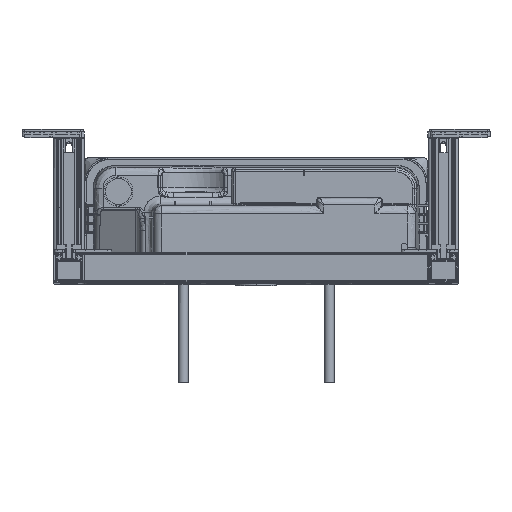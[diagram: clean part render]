
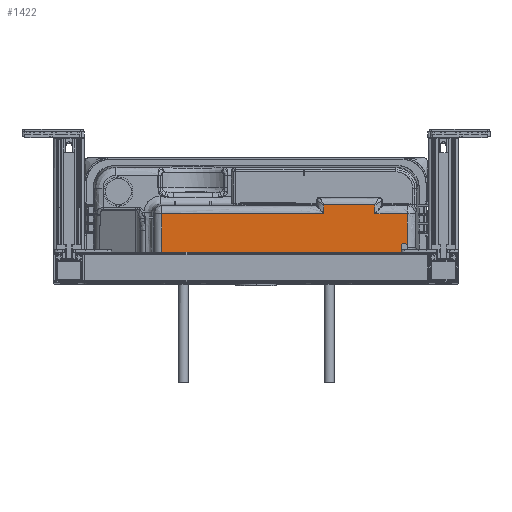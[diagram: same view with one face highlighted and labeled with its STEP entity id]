
A CAD part, top view. The second image highlights one B-rep face of the part: STEP entity #1422.
In plain terms, the highlighted planar face has unit normal (0, 0, 1).
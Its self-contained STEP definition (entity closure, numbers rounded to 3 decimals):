
#1422=ADVANCED_FACE('',(#8887),#117073,.T.);
#8887=FACE_OUTER_BOUND('',#16382,.T.);
#16382=EDGE_LOOP('',(#27966,#27967,#27968,#27969,#27970,#27971,#27972,#27973,
#27974,#27975));
#27966=ORIENTED_EDGE('',*,*,#64382,.T.);
#27967=ORIENTED_EDGE('',*,*,#64381,.F.);
#27968=ORIENTED_EDGE('',*,*,#64383,.F.);
#27969=ORIENTED_EDGE('',*,*,#64384,.F.);
#27970=ORIENTED_EDGE('',*,*,#63658,.F.);
#27971=ORIENTED_EDGE('',*,*,#63646,.F.);
#27972=ORIENTED_EDGE('',*,*,#63671,.F.);
#27973=ORIENTED_EDGE('',*,*,#64385,.T.);
#27974=ORIENTED_EDGE('',*,*,#64386,.F.);
#27975=ORIENTED_EDGE('',*,*,#64387,.F.);
#63646=EDGE_CURVE('',#102035,#102036,#82157,.T.);
#63658=EDGE_CURVE('',#102036,#102044,#82163,.T.);
#63671=EDGE_CURVE('',#102048,#102035,#82169,.T.);
#64381=EDGE_CURVE('',#102049,#102377,#82410,.T.);
#64382=EDGE_CURVE('',#102004,#102377,#82411,.T.);
#64383=EDGE_CURVE('',#102047,#102049,#89868,.T.);
#64384=EDGE_CURVE('',#102044,#102047,#89869,.T.);
#64385=EDGE_CURVE('',#102048,#102006,#89870,.T.);
#64386=EDGE_CURVE('',#102005,#102006,#89871,.T.);
#64387=EDGE_CURVE('',#102004,#102005,#89872,.T.);
#82157=(
BOUNDED_CURVE()
B_SPLINE_CURVE(1,(#163518,#163519),.UNSPECIFIED.,.F.,.F.)
B_SPLINE_CURVE_WITH_KNOTS((2,2),(-11.022,0.),.UNSPECIFIED.)
CURVE()
GEOMETRIC_REPRESENTATION_ITEM()
RATIONAL_B_SPLINE_CURVE((1.,1.))
REPRESENTATION_ITEM('')
);
#82163=(
BOUNDED_CURVE()
B_SPLINE_CURVE(1,(#163562,#163563),.UNSPECIFIED.,.F.,.F.)
B_SPLINE_CURVE_WITH_KNOTS((2,2),(-63.,0.),.UNSPECIFIED.)
CURVE()
GEOMETRIC_REPRESENTATION_ITEM()
RATIONAL_B_SPLINE_CURVE((1.,1.))
REPRESENTATION_ITEM('')
);
#82169=(
BOUNDED_CURVE()
B_SPLINE_CURVE(1,(#163631,#163632),.UNSPECIFIED.,.F.,.F.)
B_SPLINE_CURVE_WITH_KNOTS((2,2),(-199.935,0.),.UNSPECIFIED.)
CURVE()
GEOMETRIC_REPRESENTATION_ITEM()
RATIONAL_B_SPLINE_CURVE((1.,1.))
REPRESENTATION_ITEM('')
);
#82410=(
BOUNDED_CURVE()
B_SPLINE_CURVE(1,(#167019,#167020),.UNSPECIFIED.,.F.,.F.)
B_SPLINE_CURVE_WITH_KNOTS((2,2),(-38.214,0.),.UNSPECIFIED.)
CURVE()
GEOMETRIC_REPRESENTATION_ITEM()
RATIONAL_B_SPLINE_CURVE((1.,1.))
REPRESENTATION_ITEM('')
);
#82411=(
BOUNDED_CURVE()
B_SPLINE_CURVE(2,(#167021,#167022,#167023,#167024,#167025,#167026,#167027,
#167028,#167029),.UNSPECIFIED.,.F.,.F.)
B_SPLINE_CURVE_WITH_KNOTS((3,2,2,2,3),(-10.606,-5.303,
0.,5.321,10.643),.UNSPECIFIED.)
CURVE()
GEOMETRIC_REPRESENTATION_ITEM()
RATIONAL_B_SPLINE_CURVE((1.,0.803,1.,0.803,1.,0.801,
1.,0.801,1.))
REPRESENTATION_ITEM('')
);
#89868=B_SPLINE_CURVE_WITH_KNOTS('',1,(#167030,#167031),.UNSPECIFIED.,.F.,
 .F.,(2,2),(-39.978,0.),.UNSPECIFIED.);
#89869=B_SPLINE_CURVE_WITH_KNOTS('',1,(#167032,#167033),.UNSPECIFIED.,.F.,
 .F.,(2,2),(-11.022,0.),.UNSPECIFIED.);
#89870=B_SPLINE_CURVE_WITH_KNOTS('',1,(#167034,#167035),.UNSPECIFIED.,.F.,
 .F.,(2,2),(0.,57.956),.UNSPECIFIED.);
#89871=B_SPLINE_CURVE_WITH_KNOTS('',1,(#167036,#167037),.UNSPECIFIED.,.F.,
 .F.,(2,2),(-286.923,0.),.UNSPECIFIED.);
#89872=B_SPLINE_CURVE_WITH_KNOTS('',3,(#167038,#167039,#167040,#167041,
#167042,#167043,#167044,#167045,#167046,#167047,#167048,#167049,#167050,
#167051,#167052,#167053,#167054,#167055,#167056),.UNSPECIFIED.,.F.,.F.,
(4,1,1,1,1,1,1,1,1,1,1,1,1,1,1,1,4),(0.,0.062,0.125,
0.187,0.25,0.312,0.375,
0.437,0.5,0.562,0.625,
0.687,0.75,0.812,0.875,
0.937,1.),.UNSPECIFIED.);
#102004=VERTEX_POINT('',#160152);
#102005=VERTEX_POINT('',#160153);
#102006=VERTEX_POINT('',#160154);
#102035=VERTEX_POINT('',#160183);
#102036=VERTEX_POINT('',#160184);
#102044=VERTEX_POINT('',#160192);
#102047=VERTEX_POINT('',#160195);
#102048=VERTEX_POINT('',#160196);
#102049=VERTEX_POINT('',#160197);
#102377=VERTEX_POINT('',#160525);
#117073=PLANE('',#120849);
#120849=AXIS2_PLACEMENT_3D('',#159534,#124591,$);
#124591=DIRECTION('',(0.,0.,1.));
#159534=CARTESIAN_POINT('',(-146.847,2.956,1087.221));
#160152=CARTESIAN_POINT('',(186.458,25.157,1087.22));
#160153=CARTESIAN_POINT('',(170.488,9.974,1087.221));
#160154=CARTESIAN_POINT('',(-116.435,9.974,1087.221));
#160183=CARTESIAN_POINT('',(83.5,67.93,1087.221));
#160184=CARTESIAN_POINT('',(83.5,78.952,1087.221));
#160192=CARTESIAN_POINT('',(146.5,78.952,1087.221));
#160195=CARTESIAN_POINT('',(146.5,67.93,1087.221));
#160196=CARTESIAN_POINT('',(-116.435,67.93,1087.221));
#160197=CARTESIAN_POINT('',(186.478,67.93,1087.221));
#160525=CARTESIAN_POINT('',(186.478,29.716,1087.22));
#163518=CARTESIAN_POINT('',(83.5,67.93,1087.221));
#163519=CARTESIAN_POINT('',(83.5,78.952,1087.221));
#163562=CARTESIAN_POINT('',(83.5,78.952,1087.221));
#163563=CARTESIAN_POINT('',(146.5,78.952,1087.221));
#163631=CARTESIAN_POINT('',(-116.435,67.93,1087.221));
#163632=CARTESIAN_POINT('',(83.5,67.93,1087.221));
#167019=CARTESIAN_POINT('',(186.478,67.93,1087.221));
#167020=CARTESIAN_POINT('',(186.478,29.716,1087.22));
#167021=CARTESIAN_POINT('',(186.458,25.157,1087.22));
#167022=CARTESIAN_POINT('',(184.753,22.588,1087.22));
#167023=CARTESIAN_POINT('',(181.801,23.478,1087.22));
#167024=CARTESIAN_POINT('',(178.85,24.369,1087.22));
#167025=CARTESIAN_POINT('',(178.85,27.452,1087.22));
#167026=CARTESIAN_POINT('',(178.85,30.549,1087.22));
#167027=CARTESIAN_POINT('',(181.819,31.43,1087.22));
#167028=CARTESIAN_POINT('',(184.788,32.311,1087.22));
#167029=CARTESIAN_POINT('',(186.478,29.716,1087.22));
#167030=CARTESIAN_POINT('',(146.5,67.93,1087.221));
#167031=CARTESIAN_POINT('',(186.478,67.93,1087.221));
#167032=CARTESIAN_POINT('',(146.5,78.952,1087.221));
#167033=CARTESIAN_POINT('',(146.5,67.93,1087.221));
#167034=CARTESIAN_POINT('',(-116.435,67.93,1087.221));
#167035=CARTESIAN_POINT('',(-116.435,9.974,1087.221));
#167036=CARTESIAN_POINT('',(170.488,9.974,1087.221));
#167037=CARTESIAN_POINT('',(-116.435,9.974,1087.221));
#167038=CARTESIAN_POINT('',(186.458,25.157,1087.22));
#167039=CARTESIAN_POINT('',(186.432,24.649,1087.22));
#167040=CARTESIAN_POINT('',(186.333,23.643,1087.22));
#167041=CARTESIAN_POINT('',(186.041,22.148,1087.22));
#167042=CARTESIAN_POINT('',(185.609,20.69,1087.22));
#167043=CARTESIAN_POINT('',(185.041,19.279,1087.221));
#167044=CARTESIAN_POINT('',(184.342,17.928,1087.221));
#167045=CARTESIAN_POINT('',(183.517,16.65,1087.221));
#167046=CARTESIAN_POINT('',(182.575,15.456,1087.221));
#167047=CARTESIAN_POINT('',(181.524,14.357,1087.221));
#167048=CARTESIAN_POINT('',(180.373,13.363,1087.221));
#167049=CARTESIAN_POINT('',(179.133,12.482,1087.221));
#167050=CARTESIAN_POINT('',(177.815,11.723,1087.221));
#167051=CARTESIAN_POINT('',(176.431,11.092,1087.221));
#167052=CARTESIAN_POINT('',(174.993,10.596,1087.221));
#167053=CARTESIAN_POINT('',(173.515,10.238,1087.221));
#167054=CARTESIAN_POINT('',(172.007,10.022,1087.221));
#167055=CARTESIAN_POINT('',(170.996,9.974,1087.221));
#167056=CARTESIAN_POINT('',(170.488,9.974,1087.221));
